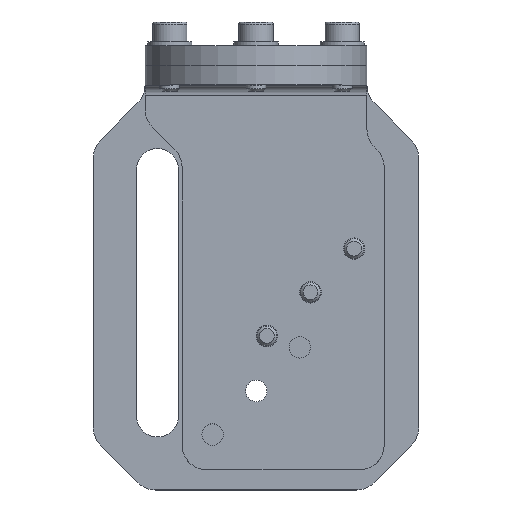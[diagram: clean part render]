
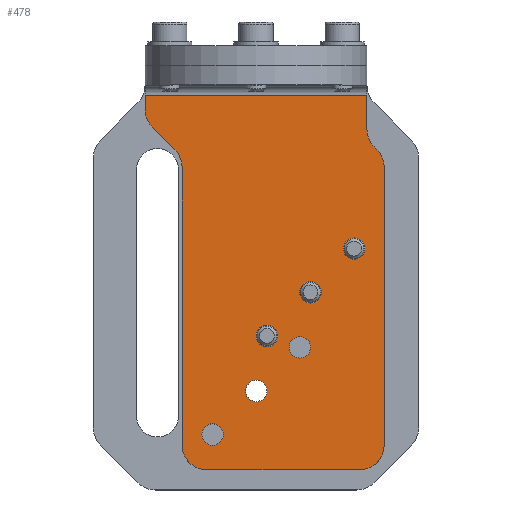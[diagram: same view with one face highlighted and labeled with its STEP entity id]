
A CAD part, top view. The second image highlights one B-rep face of the part: STEP entity #478.
In plain terms, the highlighted planar face has unit normal (0, 0, 1).
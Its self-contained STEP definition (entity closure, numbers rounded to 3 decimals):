
#323=PLANE('',#3833);
#478=ADVANCED_FACE('',(#774,#775,#776,#777,#778,#779,#780),#323,.T.);
#774=FACE_BOUND('',#1094,.T.);
#775=FACE_BOUND('',#1095,.T.);
#776=FACE_BOUND('',#1096,.T.);
#777=FACE_BOUND('',#1097,.T.);
#778=FACE_BOUND('',#1098,.T.);
#779=FACE_BOUND('',#1099,.T.);
#780=FACE_BOUND('',#1100,.T.);
#1094=EDGE_LOOP('',(#1733));
#1095=EDGE_LOOP('',(#1734));
#1096=EDGE_LOOP('',(#1735));
#1097=EDGE_LOOP('',(#1736));
#1098=EDGE_LOOP('',(#1737,#1738,#1739,#1740,#1741,#1742,#1743,#1744,#1745,
#1746,#1747,#1748,#1749,#1750,#1751));
#1099=EDGE_LOOP('',(#1752));
#1100=EDGE_LOOP('',(#1753));
#1733=ORIENTED_EDGE('',*,*,#2622,.T.);
#1734=ORIENTED_EDGE('',*,*,#2623,.F.);
#1735=ORIENTED_EDGE('',*,*,#2624,.F.);
#1736=ORIENTED_EDGE('',*,*,#2625,.F.);
#1737=ORIENTED_EDGE('',*,*,#2626,.F.);
#1738=ORIENTED_EDGE('',*,*,#2627,.T.);
#1739=ORIENTED_EDGE('',*,*,#2628,.T.);
#1740=ORIENTED_EDGE('',*,*,#2629,.T.);
#1741=ORIENTED_EDGE('',*,*,#2630,.T.);
#1742=ORIENTED_EDGE('',*,*,#2631,.T.);
#1743=ORIENTED_EDGE('',*,*,#2632,.T.);
#1744=ORIENTED_EDGE('',*,*,#2633,.F.);
#1745=ORIENTED_EDGE('',*,*,#2634,.T.);
#1746=ORIENTED_EDGE('',*,*,#2635,.T.);
#1747=ORIENTED_EDGE('',*,*,#2636,.T.);
#1748=ORIENTED_EDGE('',*,*,#2637,.T.);
#1749=ORIENTED_EDGE('',*,*,#2638,.T.);
#1750=ORIENTED_EDGE('',*,*,#2639,.F.);
#1751=ORIENTED_EDGE('',*,*,#2640,.T.);
#1752=ORIENTED_EDGE('',*,*,#2641,.F.);
#1753=ORIENTED_EDGE('',*,*,#2642,.F.);
#2258=VERTEX_POINT('',#5589);
#2259=VERTEX_POINT('',#5591);
#2260=VERTEX_POINT('',#5593);
#2261=VERTEX_POINT('',#5595);
#2262=VERTEX_POINT('',#5597);
#2263=VERTEX_POINT('',#5598);
#2264=VERTEX_POINT('',#5600);
#2265=VERTEX_POINT('',#5602);
#2266=VERTEX_POINT('',#5604);
#2267=VERTEX_POINT('',#5606);
#2268=VERTEX_POINT('',#5608);
#2269=VERTEX_POINT('',#5610);
#2270=VERTEX_POINT('',#5612);
#2271=VERTEX_POINT('',#5614);
#2272=VERTEX_POINT('',#5616);
#2273=VERTEX_POINT('',#5618);
#2274=VERTEX_POINT('',#5620);
#2275=VERTEX_POINT('',#5622);
#2276=VERTEX_POINT('',#5624);
#2277=VERTEX_POINT('',#5627);
#2278=VERTEX_POINT('',#5629);
#2622=EDGE_CURVE('',#2258,#2258,#2891,.T.);
#2623=EDGE_CURVE('',#2259,#2259,#2892,.T.);
#2624=EDGE_CURVE('',#2260,#2260,#2893,.T.);
#2625=EDGE_CURVE('',#2261,#2261,#2894,.T.);
#2626=EDGE_CURVE('',#2262,#2263,#3276,.T.);
#2627=EDGE_CURVE('',#2262,#2264,#2895,.T.);
#2628=EDGE_CURVE('',#2264,#2265,#3277,.T.);
#2629=EDGE_CURVE('',#2265,#2266,#3278,.T.);
#2630=EDGE_CURVE('',#2266,#2267,#2896,.T.);
#2631=EDGE_CURVE('',#2267,#2268,#3279,.T.);
#2632=EDGE_CURVE('',#2268,#2269,#2897,.T.);
#2633=EDGE_CURVE('',#2270,#2269,#3280,.T.);
#2634=EDGE_CURVE('',#2270,#2271,#2898,.T.);
#2635=EDGE_CURVE('',#2271,#2272,#3281,.T.);
#2636=EDGE_CURVE('',#2272,#2273,#2899,.T.);
#2637=EDGE_CURVE('',#2273,#2274,#3282,.T.);
#2638=EDGE_CURVE('',#2274,#2275,#2900,.T.);
#2639=EDGE_CURVE('',#2276,#2275,#3283,.T.);
#2640=EDGE_CURVE('',#2276,#2263,#3284,.T.);
#2641=EDGE_CURVE('',#2277,#2277,#2901,.T.);
#2642=EDGE_CURVE('',#2278,#2278,#2902,.T.);
#2891=CIRCLE('',#3821,2.175);
#2892=CIRCLE('',#3822,2.175);
#2893=CIRCLE('',#3823,2.175);
#2894=CIRCLE('',#3824,2.175);
#2895=CIRCLE('',#3825,5.);
#2896=CIRCLE('',#3826,5.);
#2897=CIRCLE('',#3827,5.);
#2898=CIRCLE('',#3828,5.);
#2899=CIRCLE('',#3829,5.);
#2900=CIRCLE('',#3830,5.);
#2901=CIRCLE('',#3831,2.175);
#2902=CIRCLE('',#3832,2.175);
#3276=LINE('',#5596,#3519);
#3277=LINE('',#5601,#3520);
#3278=LINE('',#5603,#3521);
#3279=LINE('',#5607,#3522);
#3280=LINE('',#5611,#3523);
#3281=LINE('',#5615,#3524);
#3282=LINE('',#5619,#3525);
#3283=LINE('',#5623,#3526);
#3284=LINE('',#5625,#3527);
#3519=VECTOR('',#4599,1.);
#3520=VECTOR('',#4602,1.);
#3521=VECTOR('',#4603,1.);
#3522=VECTOR('',#4606,1.);
#3523=VECTOR('',#4609,1.);
#3524=VECTOR('',#4612,1.);
#3525=VECTOR('',#4615,1.);
#3526=VECTOR('',#4618,1.);
#3527=VECTOR('',#4619,1.);
#3821=AXIS2_PLACEMENT_3D('',#5588,#4591,#4592);
#3822=AXIS2_PLACEMENT_3D('',#5590,#4593,#4594);
#3823=AXIS2_PLACEMENT_3D('',#5592,#4595,#4596);
#3824=AXIS2_PLACEMENT_3D('',#5594,#4597,#4598);
#3825=AXIS2_PLACEMENT_3D('',#5599,#4600,#4601);
#3826=AXIS2_PLACEMENT_3D('',#5605,#4604,#4605);
#3827=AXIS2_PLACEMENT_3D('',#5609,#4607,#4608);
#3828=AXIS2_PLACEMENT_3D('',#5613,#4610,#4611);
#3829=AXIS2_PLACEMENT_3D('',#5617,#4613,#4614);
#3830=AXIS2_PLACEMENT_3D('',#5621,#4616,#4617);
#3831=AXIS2_PLACEMENT_3D('',#5626,#4620,#4621);
#3832=AXIS2_PLACEMENT_3D('',#5628,#4622,#4623);
#3833=AXIS2_PLACEMENT_3D('',#5630,#4624,#4625);
#4591=DIRECTION('',(0.,0.,-1.));
#4592=DIRECTION('',(0.,-1.,0.));
#4593=DIRECTION('',(0.,0.,1.));
#4594=DIRECTION('',(0.,-1.,0.));
#4595=DIRECTION('',(0.,0.,1.));
#4596=DIRECTION('',(0.,-1.,0.));
#4597=DIRECTION('',(0.,0.,1.));
#4598=DIRECTION('',(0.,-1.,0.));
#4599=DIRECTION('',(0.,1.,0.));
#4600=DIRECTION('',(0.,0.,1.));
#4601=DIRECTION('',(0.,-1.,0.));
#4602=DIRECTION('',(0.707,-0.707,0.));
#4603=DIRECTION('',(0.707,-0.707,0.));
#4604=DIRECTION('',(0.,0.,-1.));
#4605=DIRECTION('',(0.,-1.,0.));
#4606=DIRECTION('',(0.,-1.,0.));
#4607=DIRECTION('',(0.,0.,1.));
#4608=DIRECTION('',(0.,-1.,0.));
#4609=DIRECTION('',(-1.,0.,0.));
#4610=DIRECTION('',(0.,0.,1.));
#4611=DIRECTION('',(0.,-1.,0.));
#4612=DIRECTION('',(0.,1.,0.));
#4613=DIRECTION('',(0.,0.,1.));
#4614=DIRECTION('',(0.,-1.,0.));
#4615=DIRECTION('',(-0.707,0.707,0.));
#4616=DIRECTION('',(0.,0.,-1.));
#4617=DIRECTION('',(0.,-1.,0.));
#4618=DIRECTION('',(0.,-1.,0.));
#4619=DIRECTION('',(-1.,0.,0.));
#4620=DIRECTION('',(0.,0.,1.));
#4621=DIRECTION('',(0.,-1.,0.));
#4622=DIRECTION('',(0.,0.,1.));
#4623=DIRECTION('',(0.,-1.,0.));
#4624=DIRECTION('',(0.,0.,1.));
#4625=DIRECTION('',(0.,-1.,0.));
#5588=CARTESIAN_POINT('',(-18.886,-43.939,-55.8));
#5589=CARTESIAN_POINT('',(-18.886,-46.114,-55.8));
#5590=CARTESIAN_POINT('',(-7.886,-23.939,-55.8));
#5591=CARTESIAN_POINT('',(-7.886,-26.114,-55.8));
#5592=CARTESIAN_POINT('',(0.964,-15.089,-55.8));
#5593=CARTESIAN_POINT('',(0.964,-17.264,-55.8));
#5594=CARTESIAN_POINT('',(9.814,-6.239,-55.8));
#5595=CARTESIAN_POINT('',(9.814,-8.414,-55.8));
#5596=CARTESIAN_POINT('',(-32.586,-31.089,-55.8));
#5597=CARTESIAN_POINT('',(-32.586,21.983,-55.8));
#5598=CARTESIAN_POINT('',(-32.586,24.911,-55.8));
#5599=CARTESIAN_POINT('',(-27.586,21.983,-55.8));
#5600=CARTESIAN_POINT('',(-31.121,18.447,-55.8));
#5601=CARTESIAN_POINT('',(17.664,-30.339,-55.8));
#5602=CARTESIAN_POINT('',(-28.586,15.911,-55.8));
#5603=CARTESIAN_POINT('',(-28.586,15.911,-55.8));
#5604=CARTESIAN_POINT('',(-26.55,13.876,-55.8));
#5605=CARTESIAN_POINT('',(-30.086,10.34,-55.8));
#5606=CARTESIAN_POINT('',(-25.086,10.34,-55.8));
#5607=CARTESIAN_POINT('',(-25.086,-31.089,-55.8));
#5608=CARTESIAN_POINT('',(-25.086,-46.089,-55.8));
#5609=CARTESIAN_POINT('',(-20.086,-46.089,-55.8));
#5610=CARTESIAN_POINT('',(-20.086,-51.089,-55.8));
#5611=CARTESIAN_POINT('',(16.914,-51.089,-55.8));
#5612=CARTESIAN_POINT('',(10.914,-51.089,-55.8));
#5613=CARTESIAN_POINT('',(10.914,-46.089,-55.8));
#5614=CARTESIAN_POINT('',(15.914,-46.089,-55.8));
#5615=CARTESIAN_POINT('',(15.914,-31.089,-55.8));
#5616=CARTESIAN_POINT('',(15.914,10.34,-55.8));
#5617=CARTESIAN_POINT('',(10.914,10.34,-55.8));
#5618=CARTESIAN_POINT('',(14.45,13.876,-55.8));
#5619=CARTESIAN_POINT('',(38.164,-9.839,-55.8));
#5620=CARTESIAN_POINT('',(13.879,14.447,-55.8));
#5621=CARTESIAN_POINT('',(17.414,17.983,-55.8));
#5622=CARTESIAN_POINT('',(12.414,17.983,-55.8));
#5623=CARTESIAN_POINT('',(12.414,-31.089,-55.8));
#5624=CARTESIAN_POINT('',(12.414,24.911,-55.8));
#5625=CARTESIAN_POINT('',(-37.086,24.911,-55.8));
#5626=CARTESIAN_POINT('',(-10.036,-35.089,-55.8));
#5627=CARTESIAN_POINT('',(-10.036,-37.264,-55.8));
#5628=CARTESIAN_POINT('',(-1.186,-26.239,-55.8));
#5629=CARTESIAN_POINT('',(-1.186,-28.414,-55.8));
#5630=CARTESIAN_POINT('',(16.914,-31.089,-55.8));
